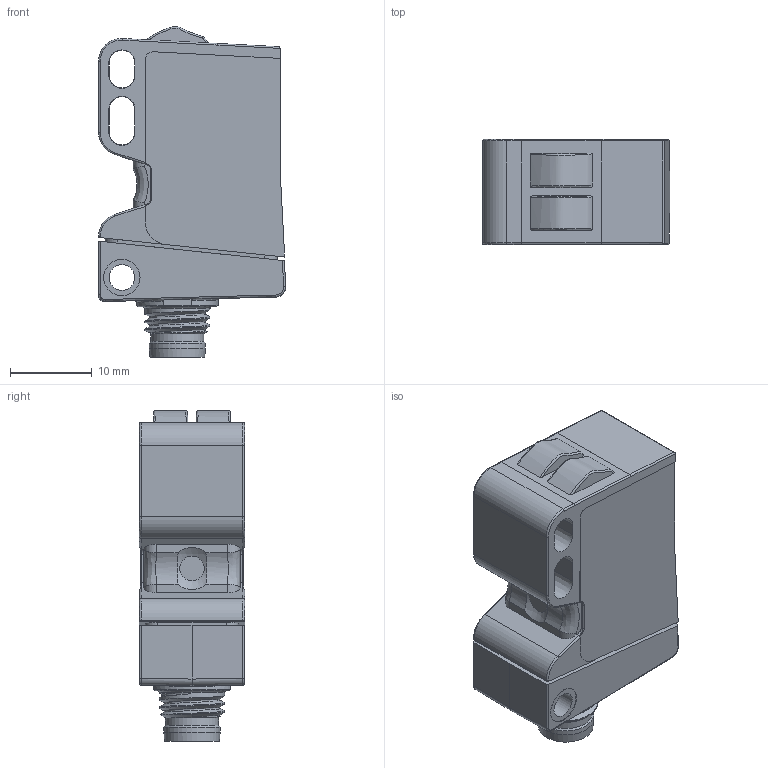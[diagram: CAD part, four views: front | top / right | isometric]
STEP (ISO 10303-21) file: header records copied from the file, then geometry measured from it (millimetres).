
FILE_DESCRIPTION(/* description */ ('Unknown','CAx-IF Rec.Pracs.---Representation and Presentation of Product Manufacturing Information (PMI)---4.0---2014-10-13','CAx-IF Rec.Pracs.---3D Tessellated Geometry---0.4---2014-09-14','2;1'),/* implementation_level */ '2;1');
FILE_NAME(/* name */ 'U300.xxx-xxxx.72N',/* time_stamp */ '2022-01-12T17:32:28+01:00',/* author */ ('Unknown'),/* organization */ ('Baumer'),/* preprocessor_version */ 'ST-DEVELOPER v16.7',/* originating_system */ 'Solid Edge',/* authorisation */ 'Unknown');
FILE_SCHEMA (('AP242_MANAGED_MODEL_BASED_3D_ENGINEERING_MIM_LF { 1 0 10303 442 1 1 4 }'));
Length unit declared in the file: millimetre
Products named in the file (1): U300.xxx-xxxx.72N
Bounding box: 23 x 12.9 x 40.56 mm (x, y, z)
Volume: 8310.8 mm3; surface area: 3660.2 mm2
Topology: 1 solids, 1 shells, 257 faces, 661 edges, 422 vertices
Faces by surface type: plane 124, cylinder 81, bspline 22, cone 16, torus 13, sphere 1
Full cylindrical faces by diameter (mm): 3.15 x1, 6.5 x1, 6.9 x1, 8 x2, 11.6 x1
Entity records: 10591 total; most frequent: CARTESIAN_POINT 2606, ORIENTED_EDGE 1280, DIRECTION 1266, EDGE_CURVE 640, AXIS2_PLACEMENT_3D 453, VERTEX_POINT 415, LINE 360, VECTOR 360
